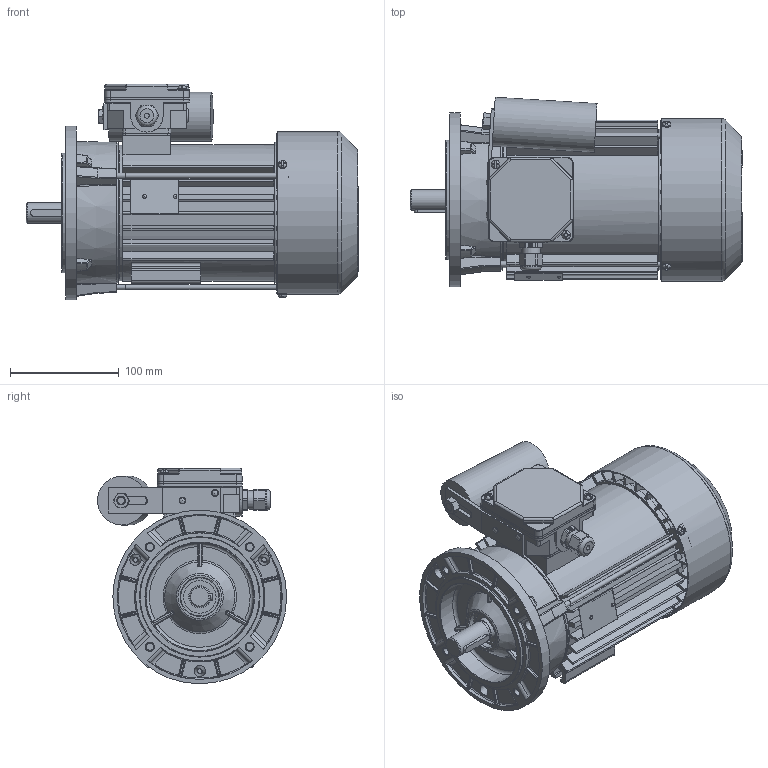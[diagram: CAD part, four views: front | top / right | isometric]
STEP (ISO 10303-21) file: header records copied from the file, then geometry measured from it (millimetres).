
FILE_DESCRIPTION( ( 'Unknown' ), '1' );
FILE_NAME( 'G:/Poczta Tk-1/STP/w.m.80/SEh80/SEKh80-.C1.stp', 'Unknown', ( 'K. Szlosek' ), ( 'BESEL S.A.' ), 'PSStep 17.0.49', 'Unknown', ' ' );
FILE_SCHEMA( ( 'AUTOMOTIVE_DESIGN { 1 0 10303 214 1 1 1 1 }' ) );
Length unit declared in the file: millimetre
Products named in the file (33): Assem1; K1-1257 Kadłub S(E,M)h80-C i D; K2-2027 Tarcza łożyskowa P S(E,M)h80-.A,C; Wkręt samogwintujący M4x16; Wkręt samogwintujący M4x10; K4-2999 Uchwyt kondensatora; K3-7039 wał standard Sh80-C; K4-4489 Osłona przewietrznika Sh80,90-A,C; K4-2320 Uszczelka nr 1 Sh71,80; K4-2820 Uszczelka nr 2 Sh71,80; K2-0860 Pokrywka skrzynki zaciskowej; K2-1131 Podstawa skrzynki zaciskowej jednofazowa; Wpust A6x6x32; K2-1715 Przewietrznik; K4-0898 Tulejka uszczelniająca; Kondensator zb 25-31,5uF Comar; nakrętka M8; Nit 4x12 po skróceniu; Nitokołek A 2x6; Łożysko 6204; Śruba ściągająca E_M5x168; Tabliczka znamionowa 32x44; Dławnica M16x1,5; K1-1259 Tarcza kołnierzowa 80 B14_1 
Assembly tree (49 placements, depth 2):
  Assem1
    K1-1257 Kadłub S(E,M)h80-C i D
    K2-2027 Tarcza łożyskowa P S(E,M)h80-.A,C
    Wkręt samogwintujący M4x16  x2
    Wkręt samogwintujący M4x10  x3
    K4-2999 Uchwyt kondensatora
    K3-7039 wał standard Sh80-C
    K4-4489 Osłona przewietrznika Sh80,90-A,C
    K4-2320 Uszczelka nr 1 Sh71,80
    K4-2820 Uszczelka nr 2 Sh71,80
    K2-0860 Pokrywka skrzynki zaciskowej
    K2-1131 Podstawa skrzynki zaciskowej jednofazowa
    Wpust A6x6x32
    K2-1715 Przewietrznik
    K4-0898 Tulejka uszczelniająca
    Kondensator zb 25-31,5uF Comar
    nakrętka M8
    Nit 4x12 po skróceniu  x2
    Nitokołek A 2x6  x2
    Łożysko 6204  x2
    Łożysko 6204  x2
    Łożysko 6204  x2
    Łożysko 6204  x2
    Łożysko 6204  x2
    Łożysko 6204  x2
    Łożysko 6204  x2
    Łożysko 6204  x2
    Łożysko 6204  x2
    Łożysko 6204  x2
    Śruba ściągająca E_M5x168  x3
    Tabliczka znamionowa 32x44
    Dławnica M16x1,5
    K1-1259 Tarcza kołnierzowa 80 B14_1 
Bounding box: 305.8 x 174.3 x 198.5 mm (x, y, z)
Volume: 1121137.1 mm3; surface area: 607242.2 mm2
Topology: 49 solids, 65 shells, 2885 faces, 7741 edges, 4933 vertices
Faces by surface type: plane 1267, cylinder 858, bspline 399, cone 167, torus 150, sphere 44
Full cylindrical faces by diameter (mm): 2 x2, 2.4 x2, 3 x2, 3.7 x11, 4 x7, 4.2 x3, 4.3 x2, 4.5 x4, 4.6 x3, 4.8 x4, 5 x7, 5.5 x3, 6 x2, 6.5 x1, 6.647 x1, 6.8 x4, 8 x10, 10 x2, 14.38 x1, 16 x1, 17.2 x1, 18.376 x1, 18.6 x1, 19 x2, 19.3 x1, 19.5 x2, 19.9 x1, 20 x4, 20.3 x2, 20.4 x4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
Entity records: 163408 total; most frequent: CARTESIAN_POINT 77818, ORIENTED_EDGE 13832, DIRECTION 12748, EDGE_CURVE 6916, AXIS2_PLACEMENT_3D 4797, VERTEX_POINT 4578, EDGE_LOOP 3245, LINE 3154
